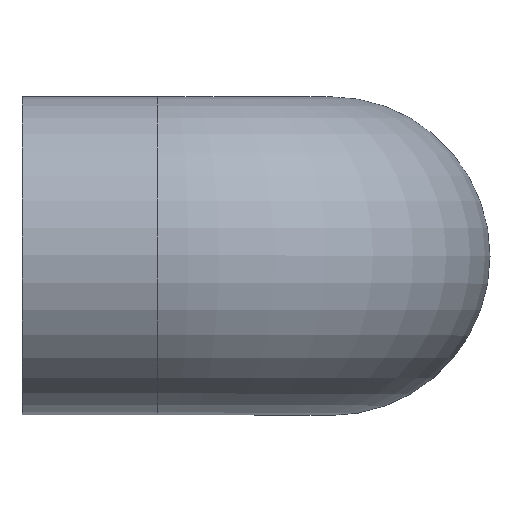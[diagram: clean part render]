
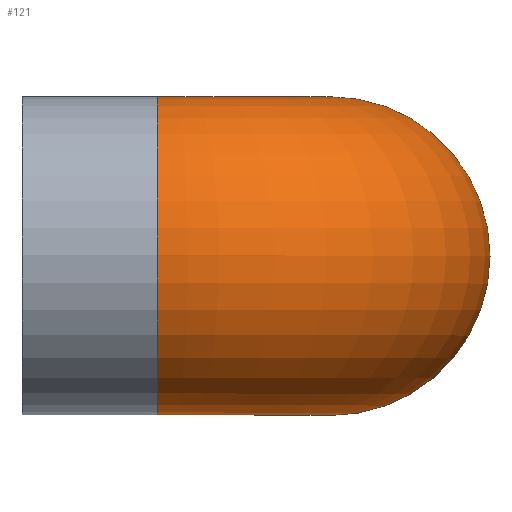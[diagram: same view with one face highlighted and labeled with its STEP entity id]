
A CAD part, top view. The second image highlights one B-rep face of the part: STEP entity #121.
In plain terms, the highlighted toroidal (fillet/blend) face has major radius 18 mm and minor radius 16.5 mm.
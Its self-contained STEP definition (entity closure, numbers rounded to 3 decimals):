
#29=FACE_BOUND('',#56,.T.);
#39=FACE_OUTER_BOUND('',#55,.T.);
#55=EDGE_LOOP('',(#105));
#56=EDGE_LOOP('',(#106));
#70=CIRCLE('',#140,16.5);
#71=CIRCLE('',#142,16.5);
#80=VERTEX_POINT('',#210);
#81=VERTEX_POINT('',#213);
#90=EDGE_CURVE('',#80,#80,#70,.T.);
#91=EDGE_CURVE('',#81,#81,#71,.T.);
#105=ORIENTED_EDGE('',*,*,#90,.F.);
#106=ORIENTED_EDGE('',*,*,#91,.T.);
#114=TOROIDAL_SURFACE('',#141,18.,16.5);
#121=ADVANCED_FACE('',(#39,#29),#114,.T.);
#140=AXIS2_PLACEMENT_3D('',#211,#175,#176);
#141=AXIS2_PLACEMENT_3D('',#212,#177,#178);
#142=AXIS2_PLACEMENT_3D('',#214,#179,#180);
#175=DIRECTION('center_axis',(-1.,0.,0.));
#176=DIRECTION('ref_axis',(0.,0.,-1.));
#177=DIRECTION('center_axis',(0.,-1.,0.));
#178=DIRECTION('ref_axis',(0.,0.,-1.));
#179=DIRECTION('center_axis',(0.,0.,1.));
#180=DIRECTION('ref_axis',(-1.,0.,0.));
#210=CARTESIAN_POINT('',(-18.,0.,48.5));
#211=CARTESIAN_POINT('Origin',(-18.,0.,32.));
#212=CARTESIAN_POINT('Origin',(-18.,0.,14.));
#213=CARTESIAN_POINT('',(16.5,0.,14.));
#214=CARTESIAN_POINT('Origin',(0.,0.,14.));
